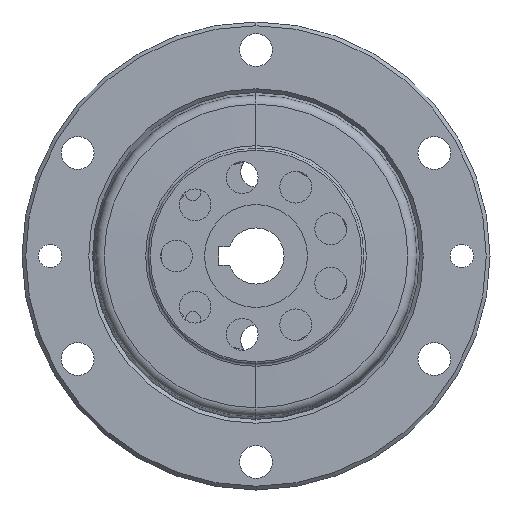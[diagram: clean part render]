
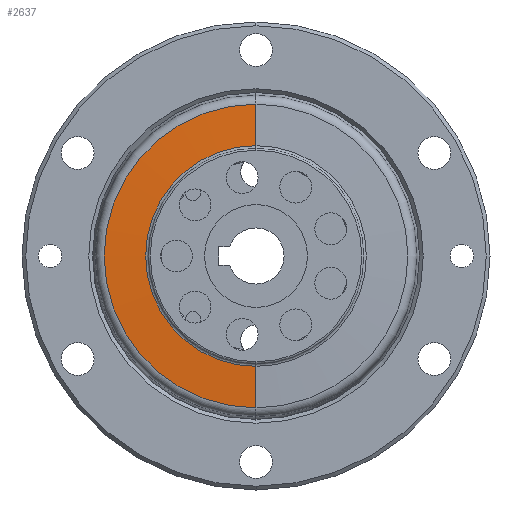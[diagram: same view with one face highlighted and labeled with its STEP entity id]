
A CAD part, left-side view. The second image highlights one B-rep face of the part: STEP entity #2637.
In plain terms, the highlighted conical face has half-angle 87.5 degrees and reference radius 16.222 mm.
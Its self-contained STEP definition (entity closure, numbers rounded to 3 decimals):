
#67 = VECTOR ( 'NONE', #10618, 1000. ) ;
#524 = CARTESIAN_POINT ( 'NONE',  ( 20.928, 0., -16.222 ) ) ;
#530 = DIRECTION ( 'NONE',  ( 0., 0., -1. ) ) ;
#668 = AXIS2_PLACEMENT_3D ( 'NONE', #10622, #9621, #530 ) ;
#796 = VERTEX_POINT ( 'NONE', #12407 ) ;
#1463 = EDGE_LOOP ( 'NONE', ( #8544, #4749, #11471, #6668 ) ) ;
#1535 = CARTESIAN_POINT ( 'NONE',  ( 20.928, 0., 16.222 ) ) ;
#1562 = VERTEX_POINT ( 'NONE', #10193 ) ;
#1650 = CARTESIAN_POINT ( 'NONE',  ( 20.928, 0., 0. ) ) ;
#1706 = AXIS2_PLACEMENT_3D ( 'NONE', #1650, #8715, #2656 ) ;
#2637 = ADVANCED_FACE ( 'NONE', ( #11422 ), #3057, .T. ) ;
#2656 = DIRECTION ( 'NONE',  ( 0., 0., 1. ) ) ;
#3057 = CONICAL_SURFACE ( 'NONE', #668, 16.222, 1.527 ) ;
#3481 = EDGE_CURVE ( 'NONE', #796, #1562, #3538, .T. ) ;
#3538 = CIRCLE ( 'NONE', #8719, 11.787 ) ;
#3583 = EDGE_CURVE ( 'NONE', #5613, #7904, #12952, .T. ) ;
#4749 = ORIENTED_EDGE ( 'NONE', *, *, #11061, .T. ) ;
#5357 = DIRECTION ( 'NONE',  ( -1., 0., 0. ) ) ;
#5584 = DIRECTION ( 'NONE',  ( 0.044, 0., 0.999 ) ) ;
#5613 = VERTEX_POINT ( 'NONE', #11261 ) ;
#6073 = LINE ( 'NONE', #524, #67 ) ;
#6544 = VECTOR ( 'NONE', #5584, 1000. ) ;
#6668 = ORIENTED_EDGE ( 'NONE', *, *, #9152, .F. ) ;
#7904 = VERTEX_POINT ( 'NONE', #8331 ) ;
#8331 = CARTESIAN_POINT ( 'NONE',  ( 20.928, 0., -16.222 ) ) ;
#8544 = ORIENTED_EDGE ( 'NONE', *, *, #3481, .F. ) ;
#8715 = DIRECTION ( 'NONE',  ( -1., 0., 0. ) ) ;
#8719 = AXIS2_PLACEMENT_3D ( 'NONE', #11377, #5357, #12374 ) ;
#9152 = EDGE_CURVE ( 'NONE', #1562, #7904, #6073, .T. ) ;
#9217 = LINE ( 'NONE', #1535, #6544 ) ;
#9621 = DIRECTION ( 'NONE',  ( 1., 0., 0. ) ) ;
#10193 = CARTESIAN_POINT ( 'NONE',  ( 20.734, 0., -11.787 ) ) ;
#10618 = DIRECTION ( 'NONE',  ( 0.044, 0., -0.999 ) ) ;
#10622 = CARTESIAN_POINT ( 'NONE',  ( 20.928, 0., 0. ) ) ;
#11061 = EDGE_CURVE ( 'NONE', #796, #5613, #9217, .T. ) ;
#11261 = CARTESIAN_POINT ( 'NONE',  ( 20.928, 0., 16.222 ) ) ;
#11377 = CARTESIAN_POINT ( 'NONE',  ( 20.734, 0., 0. ) ) ;
#11422 = FACE_OUTER_BOUND ( 'NONE', #1463, .T. ) ;
#11471 = ORIENTED_EDGE ( 'NONE', *, *, #3583, .T. ) ;
#12374 = DIRECTION ( 'NONE',  ( 0., 0., 1. ) ) ;
#12407 = CARTESIAN_POINT ( 'NONE',  ( 20.734, 0., 11.787 ) ) ;
#12952 = CIRCLE ( 'NONE', #1706, 16.222 ) ;
